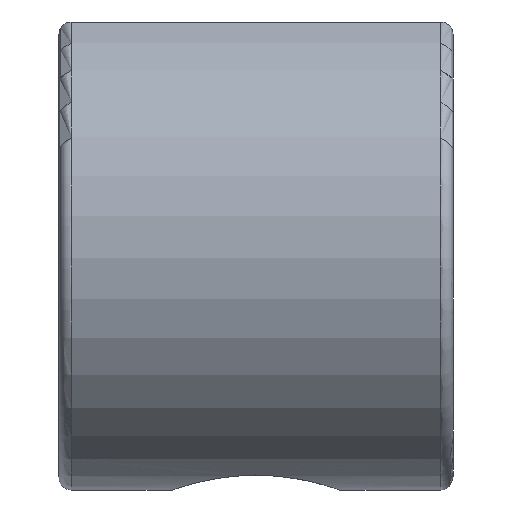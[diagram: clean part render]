
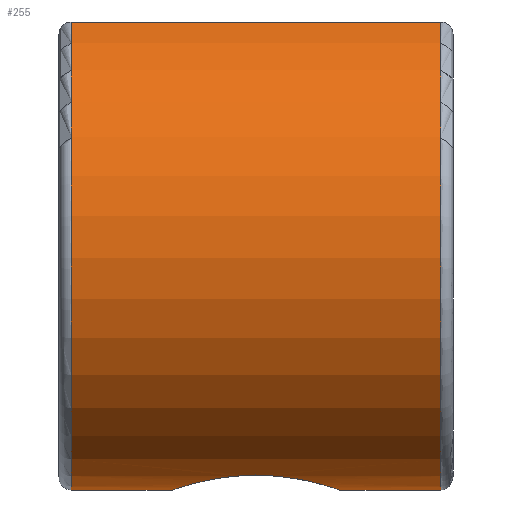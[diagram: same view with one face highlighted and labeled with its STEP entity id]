
A CAD part, left-side view. The second image highlights one B-rep face of the part: STEP entity #255.
In plain terms, the highlighted cylindrical face has radius 10 mm (diameter 20 mm), a partial arc.
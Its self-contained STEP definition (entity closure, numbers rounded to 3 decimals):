
#3 = VECTOR ( 'NONE', #31, 1000. ) ;
#13 = CARTESIAN_POINT ( 'NONE',  ( -3.225, 1.1, -9.466 ) ) ;
#14 = VERTEX_POINT ( 'NONE', #453 ) ;
#15 = DIRECTION ( 'NONE',  ( 0., 0., -1. ) ) ;
#19 = AXIS2_PLACEMENT_3D ( 'NONE', #52, #183, #122 ) ;
#24 = DIRECTION ( 'NONE',  ( 0., -1., 0. ) ) ;
#28 = AXIS2_PLACEMENT_3D ( 'NONE', #168, #311, #132 ) ;
#31 = DIRECTION ( 'NONE',  ( 0., -1., 0. ) ) ;
#43 = VERTEX_POINT ( 'NONE', #144 ) ;
#44 = CARTESIAN_POINT ( 'NONE',  ( -3.4, 0., -9.404 ) ) ;
#52 = CARTESIAN_POINT ( 'NONE',  ( 0., 7.5, 0. ) ) ;
#60 = DIRECTION ( 'NONE',  ( 0., -1., 0. ) ) ;
#63 = CARTESIAN_POINT ( 'NONE',  ( 0., -3.4, -10. ) ) ;
#75 = ORIENTED_EDGE ( 'NONE', *, *, #104, .F. ) ;
#80 = CARTESIAN_POINT ( 'NONE',  ( -3.4, 0.224, -9.404 ) ) ;
#81 = CARTESIAN_POINT ( 'NONE',  ( -3.4, -0.224, -9.404 ) ) ;
#85 = VERTEX_POINT ( 'NONE', #138 ) ;
#86 = CARTESIAN_POINT ( 'NONE',  ( -0.889, 3.289, -9.963 ) ) ;
#90 = CARTESIAN_POINT ( 'NONE',  ( -0.226, -3.4, -10. ) ) ;
#93 = CARTESIAN_POINT ( 'NONE',  ( -3.224, -1.102, -9.466 ) ) ;
#97 = CARTESIAN_POINT ( 'NONE',  ( -2.56, -2.248, -9.668 ) ) ;
#99 = CARTESIAN_POINT ( 'NONE',  ( -2.948, -1.708, -9.556 ) ) ;
#104 = EDGE_CURVE ( 'NONE', #14, #165, #214, .T. ) ;
#107 = ORIENTED_EDGE ( 'NONE', *, *, #328, .T. ) ;
#109 = CARTESIAN_POINT ( 'NONE',  ( 0., 7.5, -10. ) ) ;
#116 = CARTESIAN_POINT ( 'NONE',  ( -0.223, 3.4, -10. ) ) ;
#122 = DIRECTION ( 'NONE',  ( 0., 0., 1. ) ) ;
#125 = CARTESIAN_POINT ( 'NONE',  ( 0., 8., -10. ) ) ;
#132 = DIRECTION ( 'NONE',  ( 0., 0., 1. ) ) ;
#138 = CARTESIAN_POINT ( 'NONE',  ( 0., -7.5, -10. ) ) ;
#141 = VECTOR ( 'NONE', #60, 1000. ) ;
#144 = CARTESIAN_POINT ( 'NONE',  ( 0., 3.4, -10. ) ) ;
#147 = VERTEX_POINT ( 'NONE', #109 ) ;
#151 = CARTESIAN_POINT ( 'NONE',  ( 0., 8., 0. ) ) ;
#153 = CARTESIAN_POINT ( 'NONE',  ( -2.719, 2.09, -9.629 ) ) ;
#159 = CARTESIAN_POINT ( 'NONE',  ( -3.377, 0.451, -9.413 ) ) ;
#163 = CIRCLE ( 'NONE', #19, 10. ) ;
#165 = VERTEX_POINT ( 'NONE', #315 ) ;
#168 = CARTESIAN_POINT ( 'NONE',  ( 0., -7.5, 0. ) ) ;
#174 = LINE ( 'NONE', #125, #3 ) ;
#183 = DIRECTION ( 'NONE',  ( 0., -1., 0. ) ) ;
#185 = CYLINDRICAL_SURFACE ( 'NONE', #357, 10. ) ;
#186 = ORIENTED_EDGE ( 'NONE', *, *, #416, .T. ) ;
#188 = CARTESIAN_POINT ( 'NONE',  ( -3.4, 0., -9.404 ) ) ;
#194 = CARTESIAN_POINT ( 'NONE',  ( -1.71, 2.947, -9.854 ) ) ;
#197 = VERTEX_POINT ( 'NONE', #460 ) ;
#214 = LINE ( 'NONE', #427, #141 ) ;
#230 = CARTESIAN_POINT ( 'NONE',  ( -0.448, 3.378, -9.992 ) ) ;
#234 = DIRECTION ( 'NONE',  ( 0., -1., 0. ) ) ;
#239 = LINE ( 'NONE', #347, #313 ) ;
#250 = EDGE_CURVE ( 'NONE', #43, #305, #350, .T. ) ;
#255 = ADVANCED_FACE ( 'NONE', ( #301 ), #185, .T. ) ;
#259 = CARTESIAN_POINT ( 'NONE',  ( -2.967, 1.719, -9.551 ) ) ;
#260 = CARTESIAN_POINT ( 'NONE',  ( -1.512, 3.054, -9.887 ) ) ;
#261 = ORIENTED_EDGE ( 'NONE', *, *, #466, .T. ) ;
#263 = EDGE_LOOP ( 'NONE', ( #366, #423, #333, #107, #261, #186, #75 ) ) ;
#267 = CARTESIAN_POINT ( 'NONE',  ( -3.29, -0.886, -9.443 ) ) ;
#276 = CARTESIAN_POINT ( 'NONE',  ( -0.885, -3.29, -9.963 ) ) ;
#279 = CARTESIAN_POINT ( 'NONE',  ( -2.249, -2.56, -9.745 ) ) ;
#282 = EDGE_CURVE ( 'NONE', #14, #147, #163, .T. ) ;
#301 = FACE_OUTER_BOUND ( 'NONE', #263, .T. ) ;
#304 = CARTESIAN_POINT ( 'NONE',  ( -3.4, 0., -9.404 ) ) ;
#305 = VERTEX_POINT ( 'NONE', #304 ) ;
#309 = CARTESIAN_POINT ( 'NONE',  ( -3.054, -1.511, -9.523 ) ) ;
#311 = DIRECTION ( 'NONE',  ( 0., 1., 0. ) ) ;
#313 = VECTOR ( 'NONE', #24, 1000. ) ;
#314 = CARTESIAN_POINT ( 'NONE',  ( -0.449, -3.378, -9.992 ) ) ;
#315 = CARTESIAN_POINT ( 'NONE',  ( -4.359, -7.5, 9. ) ) ;
#328 = EDGE_CURVE ( 'NONE', #305, #197, #422, .T. ) ;
#330 = CARTESIAN_POINT ( 'NONE',  ( -2.077, 2.701, -9.784 ) ) ;
#333 = ORIENTED_EDGE ( 'NONE', *, *, #250, .T. ) ;
#334 = CARTESIAN_POINT ( 'NONE',  ( -3.378, -0.446, -9.412 ) ) ;
#337 = CARTESIAN_POINT ( 'NONE',  ( -3.29, 0.887, -9.444 ) ) ;
#347 = CARTESIAN_POINT ( 'NONE',  ( 0., 8., -10. ) ) ;
#349 = CARTESIAN_POINT ( 'NONE',  ( -1.102, -3.224, -9.941 ) ) ;
#350 = B_SPLINE_CURVE_WITH_KNOTS ( 'NONE', 3,
 ( #451, #116, #230, #86, #373, #260, #194, #330, #368, #153, #259, #13, #337, #159, #80, #44 ),
 .UNSPECIFIED., .F., .F.,
 ( 4, 2, 2, 2, 2, 2, 2, 4 ),
 ( 0.011, 0.011, 0.012, 0.013, 0.013, 0.015, 0.015, 0.016 ),
 .UNSPECIFIED. ) ;
#357 = AXIS2_PLACEMENT_3D ( 'NONE', #151, #234, #15 ) ;
#366 = ORIENTED_EDGE ( 'NONE', *, *, #282, .T. ) ;
#368 = CARTESIAN_POINT ( 'NONE',  ( -2.248, 2.561, -9.745 ) ) ;
#373 = CARTESIAN_POINT ( 'NONE',  ( -1.101, 3.224, -9.941 ) ) ;
#374 = CIRCLE ( 'NONE', #28, 10. ) ;
#382 = CARTESIAN_POINT ( 'NONE',  ( -1.708, -2.948, -9.855 ) ) ;
#405 = EDGE_CURVE ( 'NONE', #147, #43, #239, .T. ) ;
#416 = EDGE_CURVE ( 'NONE', #85, #165, #374, .T. ) ;
#421 = CARTESIAN_POINT ( 'NONE',  ( -2.075, -2.702, -9.784 ) ) ;
#422 = B_SPLINE_CURVE_WITH_KNOTS ( 'NONE', 3,
 ( #188, #81, #334, #267, #93, #309, #99, #426, #97, #279, #421, #382, #428, #349, #276, #314, #90, #63 ),
 .UNSPECIFIED., .F., .F.,
 ( 4, 2, 2, 2, 2, 2, 2, 2, 4 ),
 ( 0.016, 0.017, 0.017, 0.018, 0.019, 0.019, 0.02, 0.021, 0.021 ),
 .UNSPECIFIED. ) ;
#423 = ORIENTED_EDGE ( 'NONE', *, *, #405, .T. ) ;
#426 = CARTESIAN_POINT ( 'NONE',  ( -2.7, -2.078, -9.629 ) ) ;
#427 = CARTESIAN_POINT ( 'NONE',  ( -4.359, 8., 9. ) ) ;
#428 = CARTESIAN_POINT ( 'NONE',  ( -1.514, -3.053, -9.887 ) ) ;
#451 = CARTESIAN_POINT ( 'NONE',  ( 0., 3.4, -10. ) ) ;
#453 = CARTESIAN_POINT ( 'NONE',  ( -4.359, 7.5, 9. ) ) ;
#460 = CARTESIAN_POINT ( 'NONE',  ( 0., -3.4, -10. ) ) ;
#466 = EDGE_CURVE ( 'NONE', #197, #85, #174, .T. ) ;
